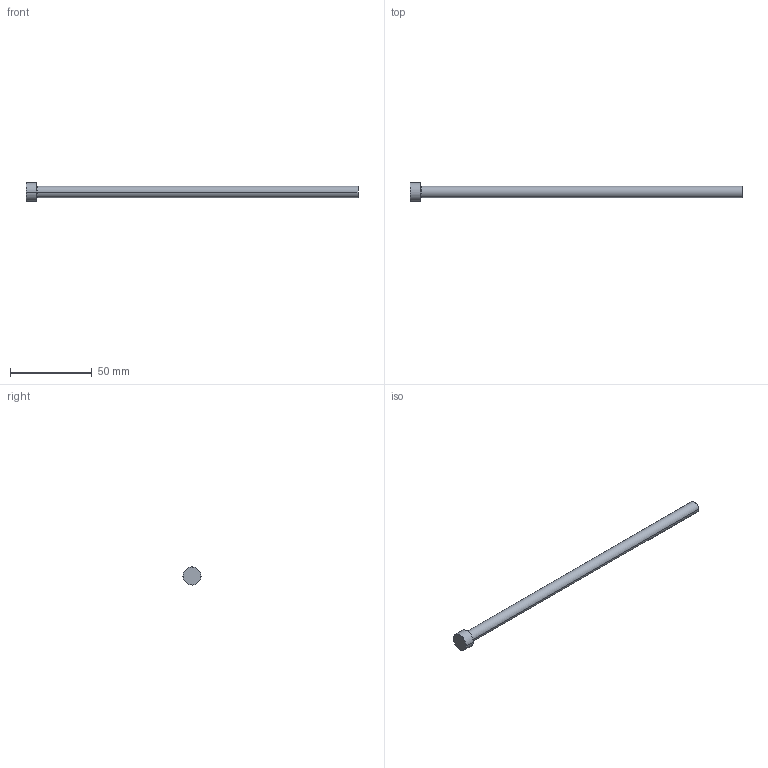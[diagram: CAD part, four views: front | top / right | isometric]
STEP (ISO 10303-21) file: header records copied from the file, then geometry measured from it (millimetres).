
FILE_DESCRIPTION (( 'STEP AP214' ), '1' );
FILE_NAME ('P19-8.STEP', '2020-03-12T08:59:48', ( '' ), ( '' ), 'SwSTEP 2.0', 'SolidWorks 2018', '' );
FILE_SCHEMA (( 'AUTOMOTIVE_DESIGN' ));
Length unit declared in the file: inch
Products named in the file (1): P19-8
Bounding box: 203.2 x 11.11 x 11.11 mm (x, y, z)
Volume: 8491.6 mm3; surface area: 4817.5 mm2
Topology: 1 solids, 1 shells, 13 faces, 24 edges, 14 vertices
Faces by surface type: cone 4, cylinder 4, plane 3, torus 2
Entity records: 366 total; most frequent: DIRECTION 68, CARTESIAN_POINT 52, ORIENTED_EDGE 48, AXIS2_PLACEMENT_3D 30, EDGE_CURVE 24, CIRCLE 16, VERTEX_POINT 14, EDGE_LOOP 14
